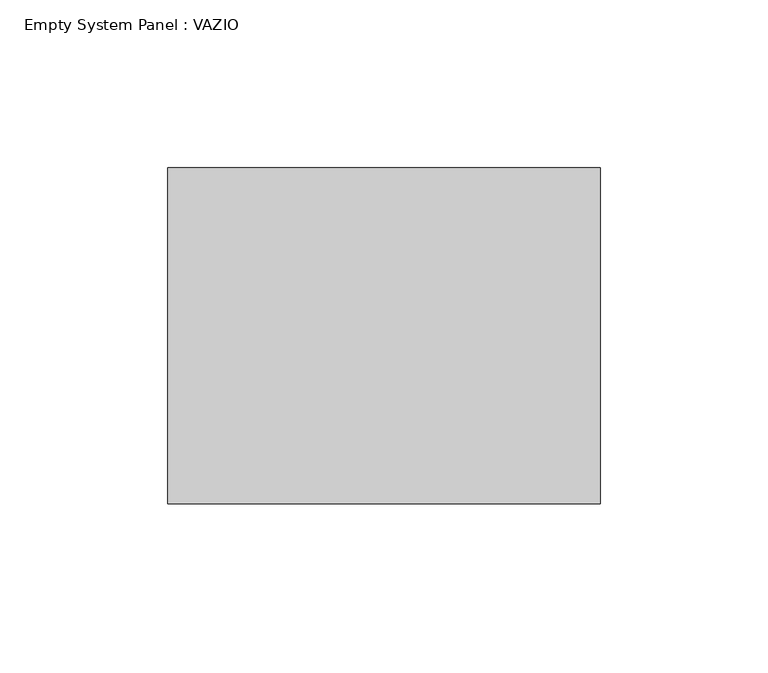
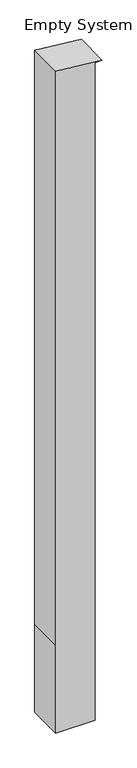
"""IFC4 building model written with IfcOpenShell, lengths in millimetres: plate geometry, Empty System Panel : VAZIO."""

from ifc_helpers import new_model, si_unit, point, frame, frame_2d, origin, place, context, project, spatial, polyline, circle_curve, trimmed, segment, composite_curve, outline, extrude, source, transform, mapped, element, save


def empty_system_panel_vazio_5330fe84(model_context):
    return source(origin(), model_context, "Body", "SweptSolid", [
        extrude(outline(composite_curve([segment(polyline([(0.0, -64.3902439), (0.0, 44.3902439), (256.7936467, 44.3902439), (1918.1331107, 44.3902439), (1918.1331107, 64.3902439)]), True, "CONTINUOUS"), segment(trimmed(circle_curve(frame_2d((3146.6227404, 125.3150355)), 1229.9994311), [point((1918.1331107, 64.3902439))], [point((1931.3406713, -64.3902439))], True, "CARTESIAN"), True, "CONTINUOUS"), segment(polyline([(1931.3406713, -64.3902439), (256.7936467, -64.3902439), (0.0, -64.3902439)]), True, "CONTINUOUS")], self_intersect=False)), frame((0.0, -50.0, 0.0), z_axis=(0.0, 1.0, 0.0), x_axis=(0.0, 0.0, 1.0)), (0.0, 0.0, 1.0), 100.0),
    ])


if __name__ == "__main__":
    model = new_model("IFC4")
    model_context = context("Model", 3, world=origin())
    ifc_project = project(units=[si_unit("LENGTHUNIT", "METRE", prefix="MILLI")], contexts=[model_context])
    site = spatial("IfcSite", under=ifc_project)
    building = spatial("IfcBuilding", under=site)
    placement = place(None, origin())
    empty_system_panel_vazio_shape = empty_system_panel_vazio_5330fe84(model_context)
    element("IfcPlate", 1, ObjectType="Empty System Panel : VAZIO", at=placement, inside=building, context=model_context, shape_type="MappedRepresentation", body=[
        mapped(empty_system_panel_vazio_shape, transform((0.0, 0.0, 0.0), x_axis=(1.0, 0.0, 0.0), y_axis=(0.0, 1.0, 0.0), z_axis=(0.0, 0.0, 1.0))),
    ])
    save(model, "model.ifc")
